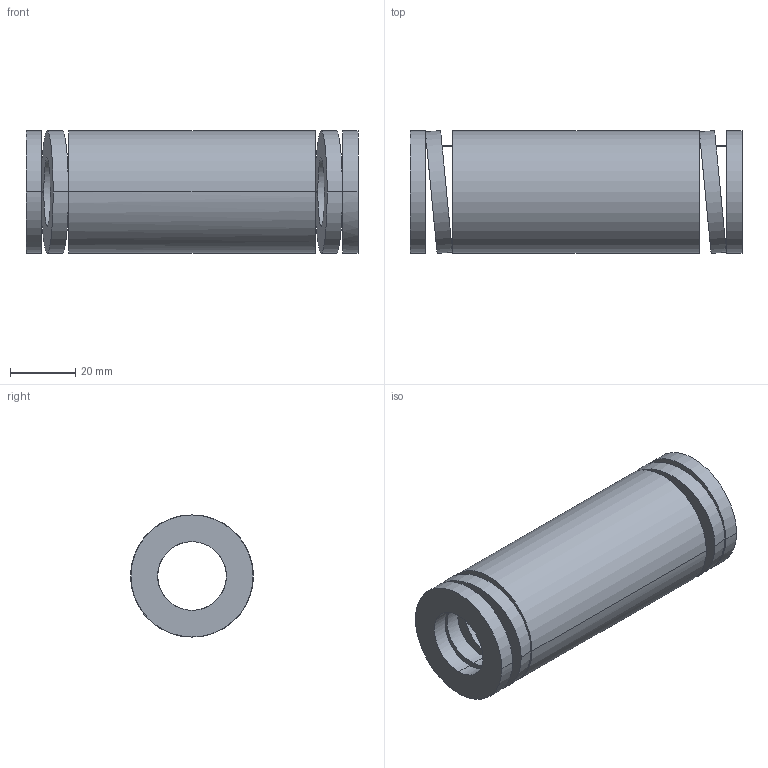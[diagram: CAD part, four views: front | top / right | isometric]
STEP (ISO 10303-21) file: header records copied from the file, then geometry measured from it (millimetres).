
FILE_DESCRIPTION(('CATIA V5 STEP Exchange'),'2;1');
FILE_NAME('C:\Users\Utente\Desktop\IO LAVORO\3D X SITO CF\X SITO\3D files 392B\392-B40-102.stp','2021-08-13T11:17:57+00:00',('none'),('none'),'CATIA Version 5 Release 20 GA (IN-10)','CATIA V5 STEP AP203','none');
FILE_SCHEMA(('CONFIG_CONTROL_DESIGN'));
Length unit declared in the file: millimetre
Products named in the file (1): 392-B40-102
Bounding box: 102 x 37.78 x 37.5 mm (x, y, z)
Volume: 71361.5 mm3; surface area: 24957.7 mm2
Topology: 1 solids, 1 shells, 38 faces, 92 edges, 64 vertices
Faces by surface type: cylinder 28, plane 10
Entity records: 1614 total; most frequent: CARTESIAN_POINT 733, ORIENTED_EDGE 184, DIRECTION 125, EDGE_CURVE 92, VERTEX_POINT 64, AXIS2_PLACEMENT_3D 60, EDGE_LOOP 56, B_SPLINE_CURVE_WITH_KNOTS 43
